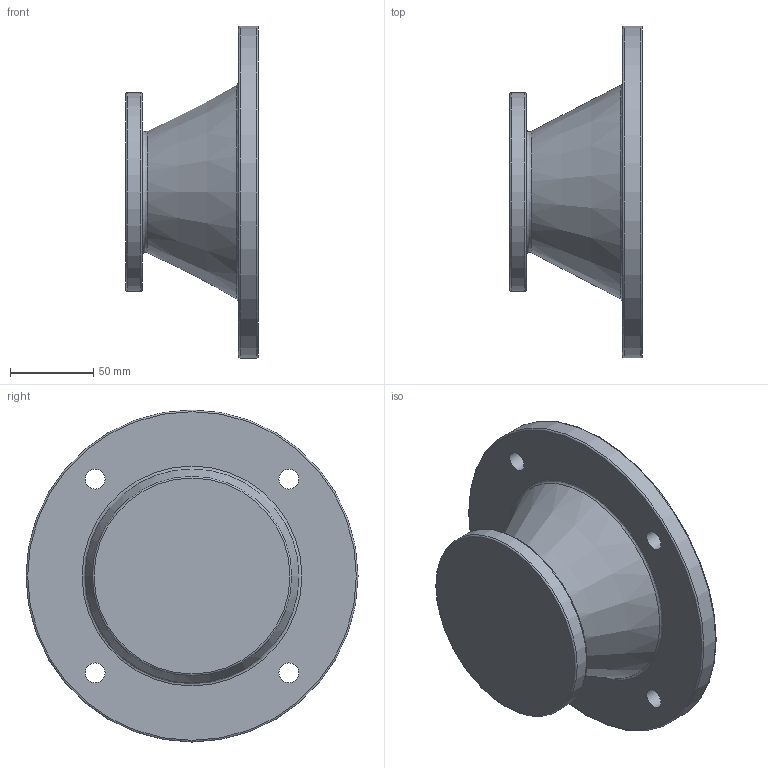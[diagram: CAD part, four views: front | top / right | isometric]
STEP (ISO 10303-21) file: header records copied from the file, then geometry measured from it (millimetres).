
FILE_DESCRIPTION((''),'2;1');
FILE_NAME('F:\PAWEŁ\ZLECENIA\2011 DualSystem\Przekładnie DK\001 Modele\DKAB30_\DK_30_STEP\80_B5_L80.stp','2012-08-20T11:49:27',('admin'),(''),'Autodesk Inventor 2009','Autodesk Inventor 2009','');
FILE_SCHEMA(('AUTOMOTIVE_DESIGN { 1 0 10303 214 1 1 1 1 }'));
Length unit declared in the file: millimetre
Products named in the file (1): 80_B5_L80
Bounding box: 80 x 200 x 200 mm (x, y, z)
Volume: 489541.1 mm3; surface area: 120981.4 mm2
Topology: 1 solids, 1 shells, 29 faces, 56 edges, 35 vertices
Faces by surface type: plane 11, bspline 6, torus 5, cylinder 5, cone 2
Full cylindrical faces by diameter (mm): 35 x1, 120 x1, 130 x1, 200 x1
Entity records: 874 total; most frequent: CARTESIAN_POINT 278, DIRECTION 116, ORIENTED_EDGE 78, EDGE_LOOP 60, AXIS2_PLACEMENT_3D 53, EDGE_CURVE 39, VERTEX_POINT 35, FACE_BOUND 31
